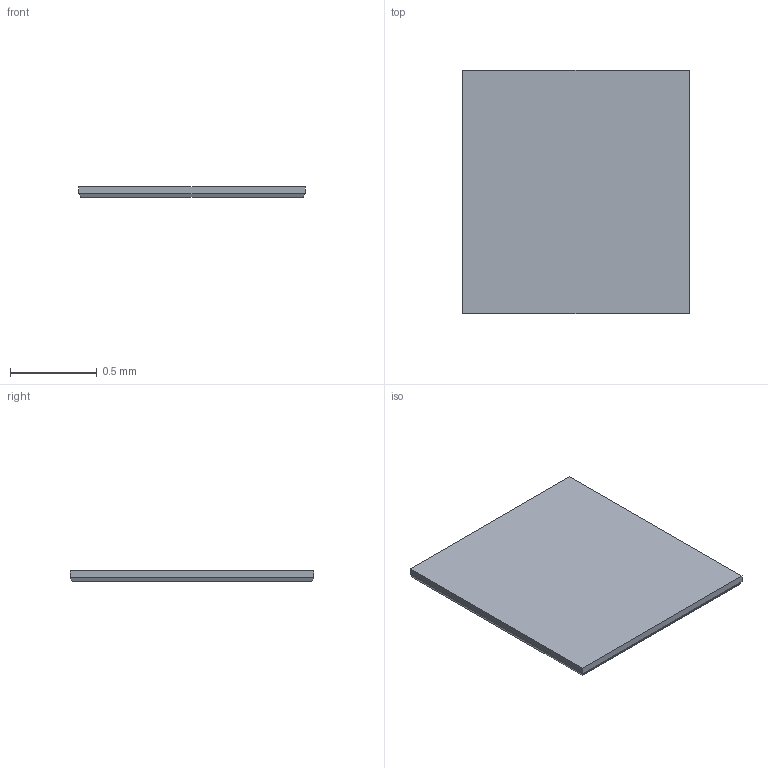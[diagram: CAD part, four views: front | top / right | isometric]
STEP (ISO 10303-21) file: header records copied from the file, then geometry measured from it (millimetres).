
FILE_DESCRIPTION(/* description */ ('STEP AP242 Edition 2','CAx-IF Rec.Pracs.---Representation and Presentation of Product Manufacturing Information (PMI)---4.0---2014-10-13','CAx-IF Rec.Pracs.---3D Tessellated Geometry---0.4---2014-09-14','2;1','CAx-IF Rec.Pracs.---User Defined Attributes---1.5---2016-08-15'),/* implementation_level */ '2;1');
FILE_NAME(/* name */ 'Assembly 1 - R0805~R0805_L2.0-W1.3-H0.6~nxQB_1 (3)',/* time_stamp */ '2026-04-02T09:55:17Z',/* author */ (''),/* organization */ (''),/* preprocessor_version */ 'ST-DEVELOPER v20',/* originating_system */ 'ONSHAPE BY PTC INC, 1.212',/* authorisation */ ' ');
FILE_SCHEMA (('AP242_MANAGED_MODEL_BASED_3D_ENGINEERING_MIM_LF { 1 0 10303 442 3 1 4 }'));
Length unit declared in the file: metre
Products named in the file (1): R0805~R0805_L2.0-W1.3-H0.6~nxQB_1
Bounding box: 1.3 x 1.4 x 0.06 mm (x, y, z)
Volume: 0.1 mm3; surface area: 3.9 mm2
Topology: 1 solids, 1 shells, 10 faces, 20 edges, 12 vertices
Faces by surface type: plane 10
Entity records: 345 total; most frequent: CARTESIAN_POINT 43, DIRECTION 42, ORIENTED_EDGE 40, EDGE_CURVE 20, LINE 20, VECTOR 20, VERTEX_POINT 12, PRESENTATION_STYLE_ASSIGNMENT 11
